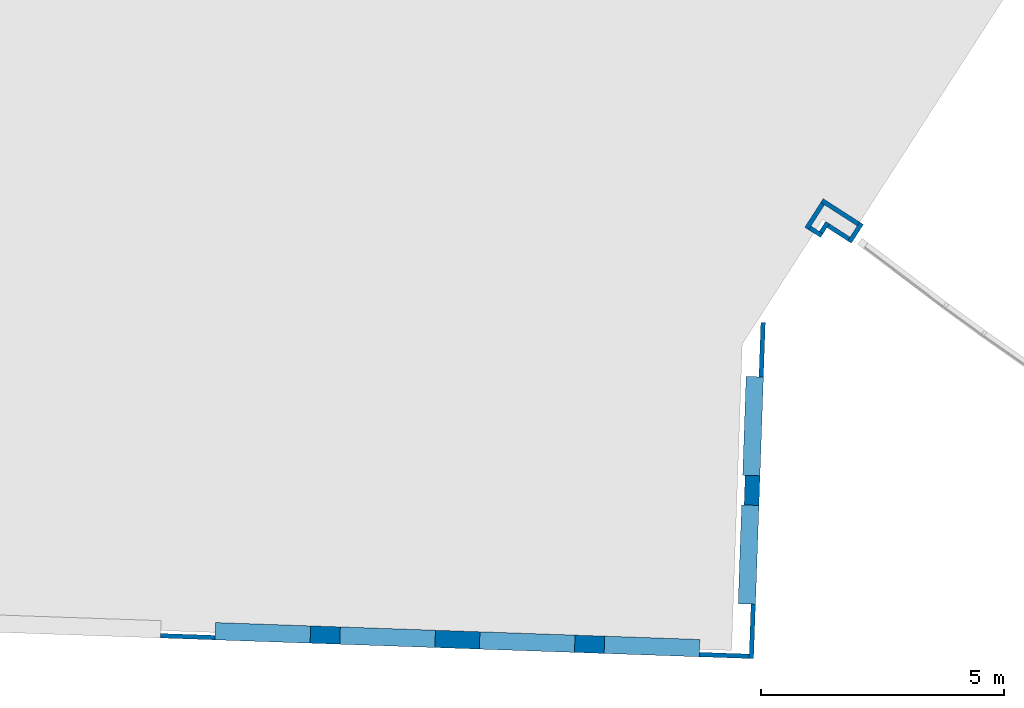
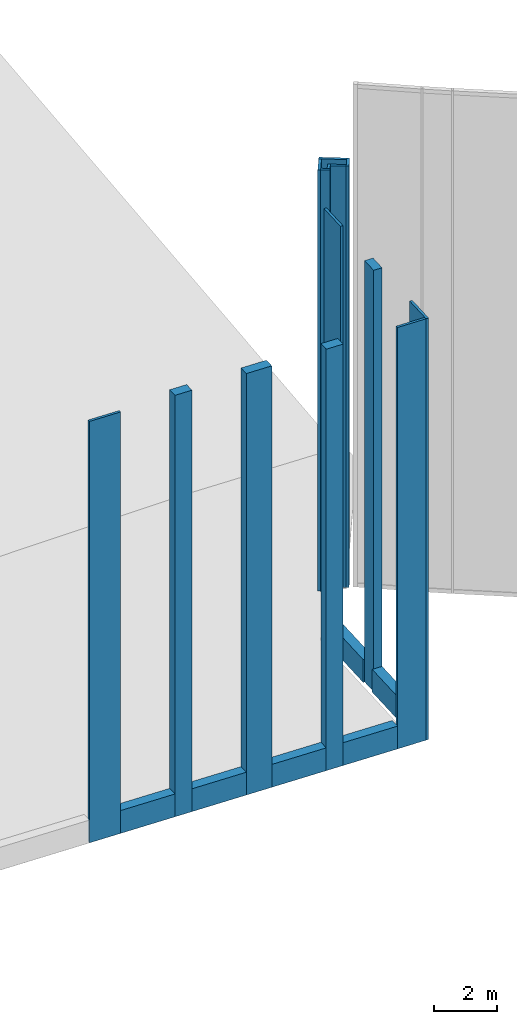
# One storey, part 10 of 17: 20 walls.
"""IFC2X3 building model written with IfcOpenShell, lengths in feet."""

import ifcopenshell
import ifcopenshell.guid

model = None  # the IFC model being written
_history = None  # IfcOwnerHistory: only IFC2X3 demands one
_inside = {}  # id of a spatial element -> (the spatial element, [elements in it])
_under = {}  # id of a project, library or spatial element -> (it, [spatial elements below it])
_declared = {}  # id of a project -> (the project, [libraries it declares])
_typed = {}  # id of a type object -> (the type object, [elements of that type])
_made_of = {}  # id of a material, layer set ... -> (it, [elements and type objects made of it])


def new_model(schema):
    """Start an empty IFC model of exactly this schema.

    Asked for "IFC4X3", IfcOpenShell would pick the latest addendum, in which some entities
    have other attributes; the version numbers below select the first issue.
    IFC2X3 requires an IfcOwnerHistory on every rooted entity: one is made here for all.
    """
    global model, _history
    if schema == "IFC4X3":
        model = ifcopenshell.file(schema_version=(4, 3, 0, 0))
    else:
        model = ifcopenshell.file(schema=schema)
    _inside.clear()
    _under.clear()
    _declared.clear()
    _typed.clear()
    _made_of.clear()
    _history = None
    if model.schema == "IFC2X3":
        org = make("IfcOrganization", Name="unknown")
        user = make(
            "IfcPersonAndOrganization",
            ThePerson=make("IfcPerson", FamilyName="unknown"),
            TheOrganization=org,
        )
        app = make(
            "IfcApplication",
            ApplicationDeveloper=org,
            Version="unknown",
            ApplicationFullName="unknown",
            ApplicationIdentifier="unknown",
        )
        _history = make(
            "IfcOwnerHistory",
            OwningUser=user,
            OwningApplication=app,
            ChangeAction="ADDED",
            CreationDate=0,
        )
    return model


def make(cls, **values):
    """One entity of the class cls with the attributes given. An attribute that is None is left unset."""
    return model.create_entity(
        cls, **{name: value for name, value in values.items() if value is not None}
    )


def entity(cls, *values):
    """Any entity or typed value of the class cls, its attributes in the order of the schema. None: left unset."""
    e = model.create_entity(cls)
    for i, value in enumerate(values):
        if value is not None:
            e[i] = value
    return e


def rooted(cls, **values):
    """An entity with a GlobalId (a new one), such as an element, a storey or a relation."""
    return make(cls, GlobalId=ifcopenshell.guid.new(), OwnerHistory=_history, **values)


def si_unit(unit_type, name, prefix=None):
    """IfcSIUnit, for example si_unit("LENGTHUNIT", "METRE", prefix="MILLI")."""
    return make("IfcSIUnit", UnitType=unit_type, Prefix=prefix, Name=name)


def converted_unit(unit_type, name, factor, base, dimensions=None, offset=None):
    """IfcConversionBasedUnit, such as the inch: factor (a typed value) times the base unit."""
    return make(
        "IfcConversionBasedUnit"
        if offset is None
        else "IfcConversionBasedUnitWithOffset",
        ConversionOffset=offset,
        Dimensions=None
        if dimensions is None
        else entity("IfcDimensionalExponents", *dimensions),
        UnitType=unit_type,
        Name=name,
        ConversionFactor=make(
            "IfcMeasureWithUnit", ValueComponent=factor, UnitComponent=base
        ),
    )


def derived_unit(unit_type, elements):
    """IfcDerivedUnit: a product of units, each with its exponent."""
    return make(
        "IfcDerivedUnit",
        Elements=[
            make("IfcDerivedUnitElement", Unit=unit, Exponent=power)
            for unit, power in elements
        ],
        UnitType=unit_type,
    )


def assignment(units):
    """IfcUnitAssignment: the units of a project."""
    return None if units is None else make("IfcUnitAssignment", Units=units)


def point(xyz):
    """IfcCartesianPoint."""
    return None if xyz is None else make("IfcCartesianPoint", Coordinates=xyz)


def direction(xyz):
    """IfcDirection."""
    return None if xyz is None else make("IfcDirection", DirectionRatios=xyz)


def frame(location, z_axis=None, x_axis=None):
    """IfcAxis2Placement3D, a coordinate frame: its origin and axes. An axis left out is left unset."""
    return make(
        "IfcAxis2Placement3D",
        Location=point(location),
        Axis=direction(z_axis),
        RefDirection=direction(x_axis),
    )


def frame_2d(location, x_axis=None):
    """IfcAxis2Placement2D, a coordinate frame in the plane: its origin and x axis."""
    return make(
        "IfcAxis2Placement2D", Location=point(location), RefDirection=direction(x_axis)
    )


def origin():
    """The frame at (0, 0, 0) with its axes left unset."""
    return frame((0.0, 0.0, 0.0))


def place(relative_to, where):
    """IfcLocalPlacement: puts the frame where relative to a parent placement (None: the world)."""
    return make(
        "IfcLocalPlacement", PlacementRelTo=relative_to, RelativePlacement=where
    )


def context(
    kind, dimensions, precision=None, world=None, true_north=None, identifier=None
):
    """IfcGeometricRepresentationContext, for example the 3D "Model" context."""
    return make(
        "IfcGeometricRepresentationContext",
        ContextIdentifier=identifier,
        ContextType=kind,
        CoordinateSpaceDimension=dimensions,
        Precision=precision,
        WorldCoordinateSystem=world,
        TrueNorth=true_north,
    )


def subcontext(parent, identifier, kind, view, scale=None):
    """IfcGeometricRepresentationSubContext, for example "Body" below "Model"."""
    return make(
        "IfcGeometricRepresentationSubContext",
        ContextIdentifier=identifier,
        ContextType=kind,
        ParentContext=parent,
        TargetScale=scale,
        TargetView=view,
    )


def project(units=None, contexts=None):
    """IfcProject with its units and contexts."""
    return rooted(
        "IfcProject",
        Name="project",
        RepresentationContexts=contexts,
        UnitsInContext=assignment(units),
    )


def spatial(cls, under=None, at=None, **own):
    """A site, building, storey or space (cls), placed at a placement, below another one or the project."""
    s = rooted(cls, ObjectPlacement=at, **own)
    if under is not None:
        _under.setdefault(under.id(), (under, []))[1].append(s)
    return s


def profile(cls, at=None, kind="AREA", **sizes):
    """A parametric profile (cls). Its sizes go by their IFC names, for example OverallWidth=200.0."""
    return make(cls, ProfileType=kind, Position=at, **sizes)


def rectangle(**sizes):
    """IfcRectangleProfileDef."""
    return profile("IfcRectangleProfileDef", **sizes)


def extrude(swept, where, along, depth):
    """IfcExtrudedAreaSolid: the profile swept, set in the frame where, extruded along a direction by depth."""
    return make(
        "IfcExtrudedAreaSolid",
        SweptArea=swept,
        Position=where,
        ExtrudedDirection=direction(along),
        Depth=depth,
    )


def shape(context_of_items, identifier, shape_type, items):
    """IfcShapeRepresentation: the items that make up one representation, for example the "Body"."""
    return make(
        "IfcShapeRepresentation",
        ContextOfItems=context_of_items,
        RepresentationIdentifier=identifier,
        RepresentationType=shape_type,
        Items=items,
    )


def material(Name=None, Category=None):
    """IfcMaterial."""
    return make("IfcMaterial", Name=Name, Category=Category)


def layer(
    of_material, thickness, ventilated=None, Name=None, Category=None, Priority=None
):
    """IfcMaterialLayer: one layer of a wall or slab, of a material (None: an air gap)."""
    return make(
        "IfcMaterialLayer",
        Material=of_material,
        LayerThickness=thickness,
        IsVentilated=ventilated,
        Name=Name,
        Category=Category,
        Priority=Priority,
    )


def layer_set(layers, Name=None):
    """IfcMaterialLayerSet."""
    return make("IfcMaterialLayerSet", MaterialLayers=layers, LayerSetName=Name)


def layer_usage(for_layer_set, set_direction, sense, offset, extent=None):
    """IfcMaterialLayerSetUsage: how a layer set lies in its element."""
    return make(
        "IfcMaterialLayerSetUsage",
        ForLayerSet=for_layer_set,
        LayerSetDirection=set_direction,
        DirectionSense=sense,
        OffsetFromReferenceLine=offset,
        ReferenceExtent=extent,
    )


def made_of(thing, what):
    """Note that an element or type object is made of a material, layer set ...; save() writes the relation."""
    if what is not None:
        _made_of.setdefault(what.id(), (what, []))[1].append(thing)
    return thing


def type_object(cls, material=None, **own):
    """A type object (cls), such as IfcWallType, which elements share."""
    return made_of(rooted(cls, **own), material)


def element(
    cls,
    number,
    at=None,
    inside=None,
    cuts=None,
    type_object=None,
    material=None,
    context=None,
    identifier="Body",
    shape_type=None,
    held_by="IfcProductDefinitionShape",
    body=None,
    shapes=None,
    **own,
):
    """One element of the class cls, such as IfcWall. Its Tag is "e" and its number.

    at: its placement. inside: the storey or other place that contains it. cuts: it is an
    opening in that element (IfcRelVoidsElement). A single representation is given by context,
    identifier, shape_type and body (its items); several are given by shapes. held_by: the class
    of the entity that holds the representations. save() writes the other relations.
    """
    e = rooted(cls, Tag="e%d" % number, ObjectPlacement=at, **own)
    if body is not None:
        shapes = [shape(context, identifier, shape_type, body)]
    if shapes is not None:
        e.Representation = make(held_by, Representations=shapes)
    if inside is not None:
        _inside.setdefault(inside.id(), (inside, []))[1].append(e)
    if cuts is not None:
        rooted(
            "IfcRelVoidsElement", RelatingBuildingElement=cuts, RelatedOpeningElement=e
        )
    if type_object is not None:
        _typed.setdefault(type_object.id(), (type_object, []))[1].append(e)
    return made_of(e, material)


def aggregate(whole, parts):
    """IfcRelAggregates: a whole, such as a stair, and the parts it consists of."""
    return rooted("IfcRelAggregates", RelatingObject=whole, RelatedObjects=parts)


def save(model, path):
    """Write the relations noted so far, then the file.

    IfcRelAggregates (storeys below a building ...), IfcRelContainedInSpatialStructure (elements
    in a storey), IfcRelDefinesByType, IfcRelAssociatesMaterial and IfcRelDeclares: one each for
    every whole, place, type object, material and project.
    """
    for whole, parts in _under.values():
        aggregate(whole, parts)
    for where, things in _inside.values():
        rooted(
            "IfcRelContainedInSpatialStructure",
            RelatedElements=things,
            RelatingStructure=where,
        )
    for kind, things in _typed.values():
        rooted("IfcRelDefinesByType", RelatedObjects=things, RelatingType=kind)
    for what, things in _made_of.values():
        rooted("IfcRelAssociatesMaterial", RelatedObjects=things, RelatingMaterial=what)
    for by, libraries in _declared.values():
        rooted("IfcRelDeclares", RelatingContext=by, RelatedDefinitions=libraries)
    model.write(path)


model = new_model("IFC2X3")

# Units and contexts
model_context = context("Model", 3, precision=0.0001, world=origin(), true_north=direction((0.999390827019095, 0.0348994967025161)))
body_context = subcontext(model_context, "Body", "Model", "MODEL_VIEW")
ifc_project = project(units=[converted_unit("LENGTHUNIT", "FOOT", entity("IfcRatioMeasure", 0.3048), si_unit("LENGTHUNIT", "METRE"), dimensions=[1, 0, 0, 0, 0, 0, 0]), converted_unit("AREAUNIT", "SQUARE FOOT", entity("IfcRatioMeasure", 0.09290304), si_unit("AREAUNIT", "SQUARE_METRE"), dimensions=[2, 0, 0, 0, 0, 0, 0]), converted_unit("VOLUMEUNIT", "CUBIC FOOT", entity("IfcRatioMeasure", 0.028316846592), si_unit("VOLUMEUNIT", "CUBIC_METRE"), dimensions=[3, 0, 0, 0, 0, 0, 0]), converted_unit("PLANEANGLEUNIT", "DEGREE", entity("IfcRatioMeasure", 0.0174532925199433), si_unit("PLANEANGLEUNIT", "RADIAN"), dimensions=[0, 0, 0, 0, 0, 0, 0]), si_unit("MASSUNIT", "GRAM", prefix="KILO"), si_unit("TIMEUNIT", "SECOND"), si_unit("FREQUENCYUNIT", "HERTZ"), si_unit("THERMODYNAMICTEMPERATUREUNIT", "DEGREE_CELSIUS"), derived_unit("THERMALTRANSMITTANCEUNIT", [(si_unit("MASSUNIT", "GRAM", prefix="KILO"), 1), (si_unit("THERMODYNAMICTEMPERATUREUNIT", "KELVIN"), -1), (si_unit("TIMEUNIT", "SECOND"), -3)]), derived_unit("VOLUMETRICFLOWRATEUNIT", [(si_unit("LENGTHUNIT", "METRE"), 3), (si_unit("TIMEUNIT", "SECOND"), -1)]), si_unit("ELECTRICCURRENTUNIT", "AMPERE"), si_unit("ELECTRICVOLTAGEUNIT", "VOLT"), si_unit("POWERUNIT", "WATT"), si_unit("FORCEUNIT", "NEWTON"), si_unit("ILLUMINANCEUNIT", "LUX"), si_unit("LUMINOUSFLUXUNIT", "LUMEN"), si_unit("LUMINOUSINTENSITYUNIT", "CANDELA"), derived_unit("USERDEFINED", [(si_unit("MASSUNIT", "GRAM", prefix="KILO"), -1), (si_unit("LENGTHUNIT", "METRE"), -2), (si_unit("TIMEUNIT", "SECOND"), 3), (si_unit("LUMINOUSFLUXUNIT", "LUMEN"), 1)]), derived_unit("LINEARVELOCITYUNIT", [(si_unit("LENGTHUNIT", "METRE"), 1), (si_unit("TIMEUNIT", "SECOND"), -1)]), si_unit("PRESSUREUNIT", "PASCAL"), derived_unit("USERDEFINED", [(si_unit("LENGTHUNIT", "METRE"), -2), (si_unit("MASSUNIT", "GRAM", prefix="KILO"), 1), (si_unit("TIMEUNIT", "SECOND"), -2)])], contexts=[model_context])

# Site, building, storey
site_placement = place(None, frame((892.518771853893, 322.38689265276, 0.00393700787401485), z_axis=(0.0, 0.0, 1.0), x_axis=(0.0348994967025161, 0.999390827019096, 0.0)))
site = spatial("IfcSite", under=ifc_project, at=site_placement, Name="Default", CompositionType="ELEMENT")
building_placement = place(site_placement, origin())
building = spatial("IfcBuilding", under=site, at=building_placement, CompositionType="ELEMENT")
storey_placement = place(building_placement, frame((0.0, 0.0, 557.0)))
storey = spatial("IfcBuildingStorey", under=building, at=storey_placement, Name="Existing Garage - 1st Level", CompositionType="ELEMENT", Elevation=557.0)

# Walls
ifc_material_1 = material(Name="Masonry - Brick")
ifc_layer_1 = layer(ifc_material_1, 0.302083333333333)
ifc_layer_set_1 = layer_set([ifc_layer_1], Name="Basic Wall:(Existing) Exterior - Brick Veneer 3 5/8\"")
ifc_layer_usage_1 = layer_usage(ifc_layer_set_1, "AXIS2", "POSITIVE", -0.151041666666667)
wall_type_1 = type_object("IfcWallType", Name="Basic Wall:(Existing) Exterior - Brick Veneer 3 5/8\"", PredefinedType="STANDARD", material=ifc_layer_set_1)
wall_1_placement = place(storey_placement, frame((-191.239412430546, 253.41499514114, 0.0)))
element("IfcWallStandardCase", 1, at=wall_1_placement, inside=storey, type_object=wall_type_1, material=ifc_layer_usage_1, Name="Basic Wall:(Existing) Exterior - Brick Veneer 3 5/8\"", ObjectType="Basic Wall:(Existing) Exterior - Brick Veneer 3 5/8\"", context=body_context, shape_type="SweptSolid", body=[
    extrude(rectangle(XDim=3.66666666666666, YDim=0.302083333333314, at=frame_2d((1.83333333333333, 0.0), x_axis=(-1.0, 0.0))), origin(), (0.0, 0.0, 1.0), 53.5625),
])
ifc_layer_usage_2 = layer_usage(ifc_layer_set_1, "AXIS2", "NEGATIVE", 0.151041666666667)
wall_2_placement = place(storey_placement, frame((-191.088370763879, 253.566036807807, 0.0), z_axis=(0.0, 0.0, 1.0), x_axis=(0.0, 1.0, 0.0)))
element("IfcWallStandardCase", 2, at=wall_2_placement, inside=storey, type_object=wall_type_1, material=ifc_layer_usage_2, Name="Basic Wall:(Existing) Exterior - Brick Veneer 3 5/8\"", ObjectType="Basic Wall:(Existing) Exterior - Brick Veneer 3 5/8\"", context=body_context, shape_type="SweptSolid", body=[
    extrude(rectangle(XDim=3.36458333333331, YDim=0.302083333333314, at=frame_2d((1.68229166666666, 0.0), x_axis=(-1.0, 0.0))), origin(), (0.0, 0.0, 1.0), 53.5625),
])
ifc_layer_usage_3 = layer_usage(ifc_layer_set_1, "AXIS2", "POSITIVE", -0.151041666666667)
wall_3_placement = place(storey_placement, frame((-172.239412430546, 253.41499514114, 0.0)))
element("IfcWallStandardCase", 3, at=wall_3_placement, inside=storey, type_object=wall_type_1, material=ifc_layer_usage_3, Name="Basic Wall:(Existing) Exterior - Brick Veneer 3 5/8\"", ObjectType="Basic Wall:(Existing) Exterior - Brick Veneer 3 5/8\"", context=body_context, shape_type="SweptSolid", body=[
    extrude(rectangle(XDim=3.66666666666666, YDim=0.302083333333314, at=frame_2d((1.83333333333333, 0.0), x_axis=(-1.0, 0.0))), origin(), (0.0, 0.0, 1.0), 53.5625),
])
ifc_layer_usage_4 = layer_usage(ifc_layer_set_1, "AXIS2", "POSITIVE", -0.151041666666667)
wall_4_placement = place(storey_placement, frame((-162.948038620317, 247.783926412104, 0.0), z_axis=(0.0, 0.0, 1.0), x_axis=(0.858972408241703, -0.51202187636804, 0.0)))
element("IfcWallStandardCase", 4, at=wall_4_placement, inside=storey, type_object=wall_type_1, material=ifc_layer_usage_4, Name="Basic Wall:(Existing) Exterior - Brick Veneer 3 5/8\"", ObjectType="Basic Wall:(Existing) Exterior - Brick Veneer 3 5/8\"", context=body_context, shape_type="SweptSolid", body=[
    extrude(rectangle(XDim=1.50000000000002, YDim=0.302083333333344, at=frame_2d((0.750000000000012, 8.32667268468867e-17), x_axis=(-1.0, 0.0))), origin(), (0.0, 0.0, 1.0), 53.5625),
])
ifc_layer_usage_5 = layer_usage(ifc_layer_set_1, "AXIS2", "POSITIVE", -0.151041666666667)
wall_5_placement = place(storey_placement, frame((-161.71198399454, 247.22297085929, 0.0), z_axis=(0.0, 0.0, 1.0), x_axis=(0.512021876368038, 0.858972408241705, 0.0)))
element("IfcWallStandardCase", 5, at=wall_5_placement, inside=storey, type_object=wall_type_1, material=ifc_layer_usage_5, Name="Basic Wall:(Existing) Exterior - Brick Veneer 3 5/8\"", ObjectType="Basic Wall:(Existing) Exterior - Brick Veneer 3 5/8\"", context=body_context, shape_type="SweptSolid", body=[
    extrude(rectangle(XDim=2.92187500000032, YDim=0.302083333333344, at=frame_2d((1.46093750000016, -2.85882428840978e-15), x_axis=(-1.0, 0.0))), origin(), (0.0, 0.0, 1.0), 53.5625),
])
ifc_layer_usage_6 = layer_usage(ifc_layer_set_1, "AXIS2", "POSITIVE", -0.151041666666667)
wall_6_placement = place(storey_placement, frame((-160.422997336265, 249.680376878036, 0.0), z_axis=(0.0, 0.0, 1.0), x_axis=(-0.858972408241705, 0.512021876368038, 0.0)))
element("IfcWallStandardCase", 6, at=wall_6_placement, inside=storey, type_object=wall_type_1, material=ifc_layer_usage_6, Name="Basic Wall:(Existing) Exterior - Brick Veneer 3 5/8\"", ObjectType="Basic Wall:(Existing) Exterior - Brick Veneer 3 5/8\"", context=body_context, shape_type="SweptSolid", body=[
    extrude(rectangle(XDim=1.99479166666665, YDim=0.302083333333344, at=frame_2d((0.997395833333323, -2.85882428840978e-15), x_axis=(-1.0, 0.0))), origin(), (0.0, 0.0, 1.0), 53.5625),
])
ifc_layer_usage_7 = layer_usage(ifc_layer_set_1, "AXIS2", "POSITIVE", -0.151041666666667)
wall_7_placement = place(storey_placement, frame((-162.084064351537, 250.494676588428, 0.0), z_axis=(0.0, 0.0, 1.0), x_axis=(-0.512021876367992, -0.858972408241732, 0.0)))
element("IfcWallStandardCase", 7, at=wall_7_placement, inside=storey, type_object=wall_type_1, material=ifc_layer_usage_7, Name="Basic Wall:(Existing) Exterior - Brick Veneer 3 5/8\"", ObjectType="Basic Wall:(Existing) Exterior - Brick Veneer 3 5/8\"", context=body_context, shape_type="SweptSolid", body=[
    extrude(rectangle(XDim=0.963541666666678, YDim=0.302083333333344, at=frame_2d((0.481770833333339, -7.04991620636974e-15), x_axis=(-1.0, 0.0))), origin(), (0.0, 0.0, 1.0), 53.5625),
])
ifc_layer_usage_8 = layer_usage(ifc_layer_set_1, "AXIS2", "POSITIVE", -0.151041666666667)
wall_8_placement = place(storey_placement, frame((-162.370341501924, 249.719424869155, 0.0), z_axis=(0.0, 0.0, 1.0), x_axis=(0.858972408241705, -0.512021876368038, 0.0)))
element("IfcWallStandardCase", 8, at=wall_8_placement, inside=storey, type_object=wall_type_1, material=ifc_layer_usage_8, Name="Basic Wall:(Existing) Exterior - Brick Veneer 3 5/8\"", ObjectType="Basic Wall:(Existing) Exterior - Brick Veneer 3 5/8\"", context=body_context, shape_type="SweptSolid", body=[
    extrude(rectangle(XDim=0.796874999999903, YDim=0.302083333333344, at=frame_2d((0.398437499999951, 0.0), x_axis=(-1.0, 0.0))), origin(), (0.0, 0.0, 1.0), 53.5625),
])
ifc_layer_usage_9 = layer_usage(ifc_layer_set_1, "AXIS2", "POSITIVE", -0.151041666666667)
wall_9_placement = place(storey_placement, frame((-161.892925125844, 249.25900344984, 0.0), z_axis=(0.0, 0.0, 1.0), x_axis=(-0.51202187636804, -0.858972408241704, 0.0)))
element("IfcWallStandardCase", 9, at=wall_9_placement, inside=storey, type_object=wall_type_1, material=ifc_layer_usage_9, Name="Basic Wall:(Existing) Exterior - Brick Veneer 3 5/8\"", ObjectType="Basic Wall:(Existing) Exterior - Brick Veneer 3 5/8\"", context=body_context, shape_type="SweptSolid", body=[
    extrude(rectangle(XDim=1.65625000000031, YDim=0.302083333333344, at=frame_2d((0.828125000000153, -3.13638004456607e-15), x_axis=(-1.0, 0.0))), origin(), (0.0, 0.0, 1.0), 53.5625),
])
ifc_layer_usage_10 = layer_usage(ifc_layer_set_1, "AXIS2", "NEGATIVE", 0.151041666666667)
wall_10_placement = place(storey_placement, frame((-191.088370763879, 289.597286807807, 0.0), z_axis=(0.0, 0.0, 1.0), x_axis=(0.0, 1.0, 0.0)))
element("IfcWallStandardCase", 10, at=wall_10_placement, inside=storey, type_object=wall_type_1, material=ifc_layer_usage_10, Name="Basic Wall:(Existing) Exterior - Brick Veneer 3 5/8\"", ObjectType="Basic Wall:(Existing) Exterior - Brick Veneer 3 5/8\"", context=body_context, shape_type="SweptSolid", body=[
    extrude(rectangle(XDim=3.66688528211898, YDim=0.302083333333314, at=frame_2d((1.83344264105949, 0.0), x_axis=(-1.0, 0.0))), origin(), (0.0, 0.0, 1.0), 53.5625),
])
ifc_layer_2 = layer(ifc_material_1, 0.302083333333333)
ifc_material_2 = material(Name="Misc. Air Layers - Air Space")
ifc_layer_3 = layer(ifc_material_2, 0.197916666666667)
ifc_material_3 = material(Name="Concrete - Cast-in-Place Concrete_hatch surface")
ifc_layer_4 = layer(ifc_material_3, 0.666666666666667)
ifc_layer_set_2 = layer_set([ifc_layer_2, ifc_layer_3, ifc_layer_4], Name="Basic Wall:(existing)Exterior - Brick on Conc - 1'-2\"(2\" air space)")
ifc_layer_usage_11 = layer_usage(ifc_layer_set_2, "AXIS2", "POSITIVE", -0.583333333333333)
wall_type_2 = type_object("IfcWallType", Name="Basic Wall:(existing)Exterior - Brick on Conc - 1'-2\"(2\" air space)", PredefinedType="STANDARD", material=ifc_layer_set_2)
wall_11_placement = place(storey_placement, frame((-187.572745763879, 253.847286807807, 0.0)))
element("IfcWallStandardCase", 11, at=wall_11_placement, inside=storey, type_object=wall_type_2, material=ifc_layer_usage_11, Name="Basic Wall:(existing)Exterior - Brick on Conc - 1'-2\"(2\" air space)", ObjectType="Basic Wall:(existing)Exterior - Brick on Conc - 1'-2\"(2\" air space)", context=body_context, shape_type="SweptSolid", body=[
    extrude(rectangle(XDim=6.66666666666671, YDim=1.16666666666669, at=frame_2d((3.33333333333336, -5.82867087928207e-15), x_axis=(-1.0, 0.0))), origin(), (0.0, 0.0, 1.0), 2.89583333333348),
])
ifc_layer_usage_12 = layer_usage(ifc_layer_set_2, "AXIS2", "POSITIVE", -0.583333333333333)
wall_12_placement = place(storey_placement, frame((-178.906079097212, 253.847286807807, 0.0)))
element("IfcWallStandardCase", 12, at=wall_12_placement, inside=storey, type_object=wall_type_2, material=ifc_layer_usage_12, Name="Basic Wall:(existing)Exterior - Brick on Conc - 1'-2\"(2\" air space)", ObjectType="Basic Wall:(existing)Exterior - Brick on Conc - 1'-2\"(2\" air space)", context=body_context, shape_type="SweptSolid", body=[
    extrude(rectangle(XDim=6.66666666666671, YDim=1.16666666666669, at=frame_2d((3.33333333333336, -5.82867087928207e-15), x_axis=(-1.0, 0.0))), origin(), (0.0, 0.0, 1.0), 2.89583333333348),
])
ifc_layer_usage_13 = layer_usage(ifc_layer_set_2, "AXIS2", "POSITIVE", -0.583333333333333)
wall_13_placement = place(storey_placement, frame((-190.656079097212, 289.597286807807, 0.0), z_axis=(0.0, 0.0, 1.0), x_axis=(0.0, -1.0, 0.0)))
element("IfcWallStandardCase", 13, at=wall_13_placement, inside=storey, type_object=wall_type_2, material=ifc_layer_usage_13, Name="Basic Wall:(existing)Exterior - Brick on Conc - 1'-2\"(2\" air space)", ObjectType="Basic Wall:(existing)Exterior - Brick on Conc - 1'-2\"(2\" air space)", context=body_context, shape_type="SweptSolid", body=[
    extrude(rectangle(XDim=6.41666666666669, YDim=1.16666666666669, at=frame_2d((3.20833333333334, -3.38618022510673e-15), x_axis=(-1.0, 0.0))), origin(), (0.0, 0.0, 1.0), 2.89583333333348),
])
ifc_layer_usage_14 = layer_usage(ifc_layer_set_2, "AXIS2", "POSITIVE", -0.583333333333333)
wall_14_placement = place(storey_placement, frame((-190.656079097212, 281.180620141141, 0.0), z_axis=(0.0, 0.0, 1.0), x_axis=(0.0, -1.0, 0.0)))
element("IfcWallStandardCase", 14, at=wall_14_placement, inside=storey, type_object=wall_type_2, material=ifc_layer_usage_14, Name="Basic Wall:(existing)Exterior - Brick on Conc - 1'-2\"(2\" air space)", ObjectType="Basic Wall:(existing)Exterior - Brick on Conc - 1'-2\"(2\" air space)", context=body_context, shape_type="SweptSolid", body=[
    extrude(rectangle(XDim=6.41666666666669, YDim=1.16666666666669, at=frame_2d((3.20833333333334, -3.38618022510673e-15), x_axis=(-1.0, 0.0))), origin(), (0.0, 0.0, 1.0), 2.89583333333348),
])
ifc_layer_usage_15 = layer_usage(ifc_layer_set_2, "AXIS2", "POSITIVE", -0.583333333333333)
wall_15_placement = place(storey_placement, frame((-190.656079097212, 271.763953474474, 0.0), z_axis=(0.0, 0.0, 1.0), x_axis=(0.0, -1.0, 0.0)))
element("IfcWallStandardCase", 15, at=wall_15_placement, inside=storey, type_object=wall_type_2, material=ifc_layer_usage_15, Name="Basic Wall:(existing)Exterior - Brick on Conc - 1'-2\"(2\" air space)", ObjectType="Basic Wall:(existing)Exterior - Brick on Conc - 1'-2\"(2\" air space)", context=body_context, shape_type="SweptSolid", body=[
    extrude(rectangle(XDim=6.41666666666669, YDim=1.16666666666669, at=frame_2d((3.20833333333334, -3.38618022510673e-15), x_axis=(-1.0, 0.0))), origin(), (0.0, 0.0, 1.0), 2.89583333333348),
])
ifc_layer_usage_16 = layer_usage(ifc_layer_set_2, "AXIS2", "POSITIVE", -0.583333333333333)
wall_16_placement = place(storey_placement, frame((-190.656079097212, 263.347286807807, 0.0), z_axis=(0.0, 0.0, 1.0), x_axis=(0.0, -1.0, 0.0)))
element("IfcWallStandardCase", 16, at=wall_16_placement, inside=storey, type_object=wall_type_2, material=ifc_layer_usage_16, Name="Basic Wall:(existing)Exterior - Brick on Conc - 1'-2\"(2\" air space)", ObjectType="Basic Wall:(existing)Exterior - Brick on Conc - 1'-2\"(2\" air space)", context=body_context, shape_type="SweptSolid", body=[
    extrude(rectangle(XDim=6.4166666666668, YDim=1.16666666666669, at=frame_2d((3.2083333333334, -3.38618022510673e-15), x_axis=(-1.0, 0.0))), origin(), (0.0, 0.0, 1.0), 2.89583333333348),
])
ifc_layer_5 = layer(ifc_material_1, 0.302083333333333)
ifc_material_4 = material(Name="Insulation / Thermal Barriers - Rigid insulation")
ifc_layer_6 = layer(ifc_material_4, 0.0625)
ifc_material_5 = material(Name="Masonry - Concrete Masonry Units")
ifc_layer_7 = layer(ifc_material_5, 0.635416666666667)
ifc_layer_set_3 = layer_set([ifc_layer_5, ifc_layer_6, ifc_layer_7], Name="Basic Wall:(existing) Exterior - Brick on CMU - 1'-0\"")
ifc_layer_usage_17 = layer_usage(ifc_layer_set_3, "AXIS2", "POSITIVE", -0.5)
wall_type_3 = type_object("IfcWallType", Name="Basic Wall:(existing) Exterior - Brick on CMU - 1'-0\"", PredefinedType="STANDARD", material=ifc_layer_set_3)
wall_17_placement = place(storey_placement, frame((-180.906079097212, 253.763953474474, 0.0)))
element("IfcWallStandardCase", 17, at=wall_17_placement, inside=storey, type_object=wall_type_3, material=ifc_layer_usage_17, Name="Basic Wall:(existing) Exterior - Brick on CMU - 1'-0\"", ObjectType="Basic Wall:(existing) Exterior - Brick on CMU - 1'-0\"", context=body_context, shape_type="SweptSolid", body=[
    extrude(rectangle(XDim=2.0, YDim=1.0, at=frame_2d((1.0, -1.77635683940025e-15), x_axis=(-1.0, 0.0))), origin(), (0.0, 0.0, 1.0), 53.5625),
])
ifc_layer_8 = layer(ifc_material_1, 0.302083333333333)
ifc_material_6 = material(Name="Air Barrier - Air Infiltration Barrier")
ifc_layer_9 = layer(ifc_material_6, 0.229166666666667)
ifc_layer_10 = layer(ifc_material_5, 0.635416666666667)
ifc_layer_set_4 = layer_set([ifc_layer_8, ifc_layer_9, ifc_layer_10], Name="Basic Wall:(existing) Exterior - Brick on CMU - 1'-2\"")
ifc_layer_usage_18 = layer_usage(ifc_layer_set_4, "AXIS2", "NEGATIVE", 0.583333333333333)
wall_type_4 = type_object("IfcWallType", Name="Basic Wall:(existing) Exterior - Brick on CMU - 1'-2\"", PredefinedType="STANDARD", material=ifc_layer_set_4)
wall_18_placement = place(storey_placement, frame((-190.656079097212, 271.763953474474, 0.0), z_axis=(0.0, 0.0, 1.0), x_axis=(0.0, 1.0, 0.0)))
element("IfcWallStandardCase", 18, at=wall_18_placement, inside=storey, type_object=wall_type_4, material=ifc_layer_usage_18, Name="Basic Wall:(existing) Exterior - Brick on CMU - 1'-2\"", ObjectType="Basic Wall:(existing) Exterior - Brick on CMU - 1'-2\"", context=body_context, shape_type="SweptSolid", body=[
    extrude(rectangle(XDim=3.0, YDim=1.16666666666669, at=frame_2d((1.5, 0.0), x_axis=(-1.0, 0.0))), origin(), (0.0, 0.0, 1.0), 53.5625),
])
ifc_layer_usage_19 = layer_usage(ifc_layer_set_4, "AXIS2", "NEGATIVE", 0.583333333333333)
wall_19_placement = place(storey_placement, frame((-190.656079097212, 263.347286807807, 0.0), z_axis=(0.0, 0.0, 1.0), x_axis=(0.0, 1.0, 0.0)))
element("IfcWallStandardCase", 19, at=wall_19_placement, inside=storey, type_object=wall_type_4, material=ifc_layer_usage_19, Name="Basic Wall:(existing) Exterior - Brick on CMU - 1'-2\"", ObjectType="Basic Wall:(existing) Exterior - Brick on CMU - 1'-2\"", context=body_context, shape_type="SweptSolid", body=[
    extrude(rectangle(XDim=2.0, YDim=1.16666666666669, at=frame_2d((1.0, 0.0), x_axis=(-1.0, 0.0))), origin(), (0.0, 0.0, 1.0), 53.5625),
])
ifc_layer_usage_20 = layer_usage(ifc_layer_set_4, "AXIS2", "NEGATIVE", 0.583333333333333)
wall_20_placement = place(storey_placement, frame((-190.656079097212, 281.180620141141, 0.0), z_axis=(0.0, 0.0, 1.0), x_axis=(0.0, 1.0, 0.0)))
element("IfcWallStandardCase", 20, at=wall_20_placement, inside=storey, type_object=wall_type_4, material=ifc_layer_usage_20, Name="Basic Wall:(existing) Exterior - Brick on CMU - 1'-2\"", ObjectType="Basic Wall:(existing) Exterior - Brick on CMU - 1'-2\"", context=body_context, shape_type="SweptSolid", body=[
    extrude(rectangle(XDim=2.0, YDim=1.16666666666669, at=frame_2d((1.0, 0.0), x_axis=(-1.0, 0.0))), origin(), (0.0, 0.0, 1.0), 53.5625),
])

save(model, "model.ifc")
